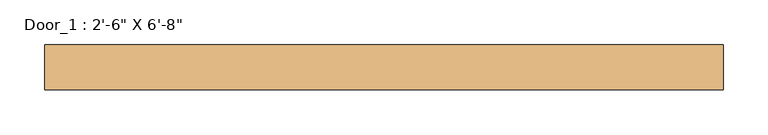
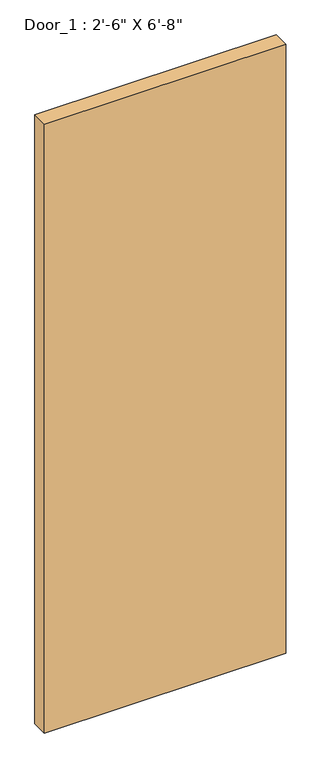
"""IFC4 building model written with IfcOpenShell, lengths in millimetres: door geometry."""

from ifc_helpers import new_model, si_unit, origin, origin_with_axes, place, context, project, spatial, polyline, outline, extrude, source, transform, mapped, element, save


def door_2ad2c74c(model_context):
    return source(origin(), model_context, "Body", "SweptSolid", [
        extrude(outline(polyline([(381.0, -27.1893842), (381.0, -77.9893842), (-381.0, -77.9893842), (-381.0, -27.1893842), (381.0, -27.1893842)])), origin_with_axes(), (0.0, 0.0, 1.0), 2032.0),
    ])


if __name__ == "__main__":
    model = new_model("IFC4")
    model_context = context("Model", 3, world=origin())
    ifc_project = project(units=[si_unit("LENGTHUNIT", "METRE", prefix="MILLI")], contexts=[model_context])
    site = spatial("IfcSite", under=ifc_project)
    building = spatial("IfcBuilding", under=site)
    placement = place(None, origin())
    door_shape = door_2ad2c74c(model_context)
    element("IfcDoor", 1, ObjectType="Door_1 : 2'-6\" X 6'-8\"", at=placement, inside=building, context=model_context, shape_type="MappedRepresentation", body=[
        mapped(door_shape, transform((0.0, 0.0, 0.0), x_axis=(1.0, 0.0, 0.0), y_axis=(0.0, 1.0, 0.0), z_axis=(0.0, 0.0, 1.0))),
    ])
    save(model, "model.ifc")
